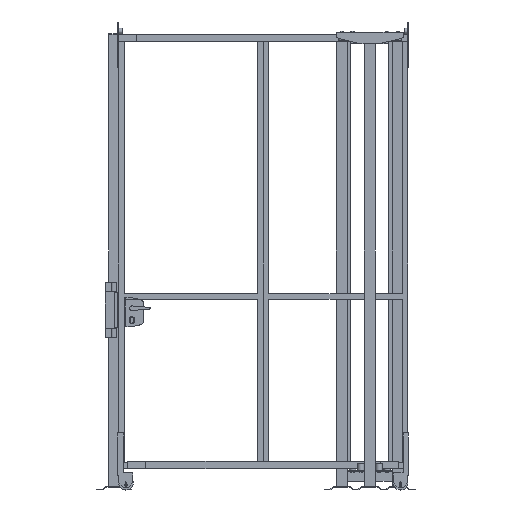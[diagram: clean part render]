
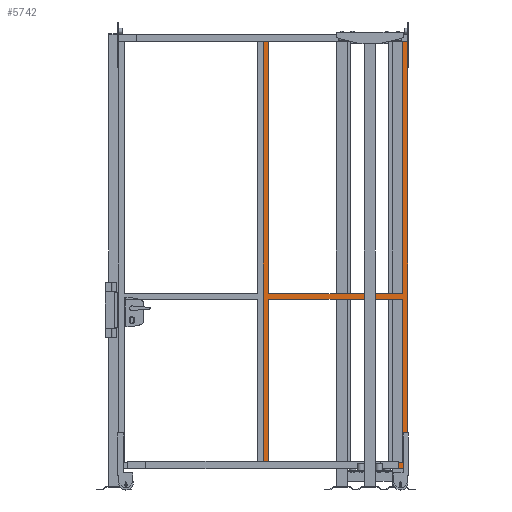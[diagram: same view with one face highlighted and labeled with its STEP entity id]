
A CAD part, front view. The second image highlights one B-rep face of the part: STEP entity #5742.
In plain terms, the highlighted planar face has unit normal (0, -1, 0).
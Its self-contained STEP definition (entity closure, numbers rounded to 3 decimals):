
#446=FACE_BOUND('',#945,.T.);
#447=FACE_BOUND('',#946,.T.);
#494=FACE_OUTER_BOUND('',#944,.T.);
#944=EDGE_LOOP('',(#3233,#3234,#3235,#3236));
#945=EDGE_LOOP('',(#3237,#3238,#3239,#3240));
#946=EDGE_LOOP('',(#3241,#3242,#3243,#3244));
#1436=VERTEX_POINT('',#11575);
#1438=VERTEX_POINT('',#11578);
#1441=VERTEX_POINT('',#11585);
#1443=VERTEX_POINT('',#11589);
#1444=VERTEX_POINT('',#11593);
#1446=VERTEX_POINT('',#11599);
#1447=VERTEX_POINT('',#11600);
#1448=VERTEX_POINT('',#11602);
#1449=VERTEX_POINT('',#11604);
#1450=VERTEX_POINT('',#11607);
#1451=VERTEX_POINT('',#11609);
#1452=VERTEX_POINT('',#11612);
#2155=EDGE_CURVE('',#1436,#1438,#6549,.T.);
#2161=EDGE_CURVE('',#1443,#1441,#6555,.T.);
#2162=EDGE_CURVE('',#1444,#1441,#6556,.T.);
#2165=EDGE_CURVE('',#1446,#1447,#6559,.T.);
#2166=EDGE_CURVE('',#1448,#1447,#6560,.T.);
#2167=EDGE_CURVE('',#1449,#1448,#6561,.T.);
#2168=EDGE_CURVE('',#1446,#1449,#6562,.T.);
#2169=EDGE_CURVE('',#1436,#1450,#6563,.T.);
#2170=EDGE_CURVE('',#1450,#1451,#6564,.T.);
#2171=EDGE_CURVE('',#1451,#1438,#6565,.T.);
#2172=EDGE_CURVE('',#1443,#1452,#6566,.T.);
#2173=EDGE_CURVE('',#1452,#1444,#6567,.T.);
#3233=ORIENTED_EDGE('',*,*,#2165,.T.);
#3234=ORIENTED_EDGE('',*,*,#2166,.F.);
#3235=ORIENTED_EDGE('',*,*,#2167,.F.);
#3236=ORIENTED_EDGE('',*,*,#2168,.F.);
#3237=ORIENTED_EDGE('',*,*,#2169,.T.);
#3238=ORIENTED_EDGE('',*,*,#2170,.T.);
#3239=ORIENTED_EDGE('',*,*,#2171,.T.);
#3240=ORIENTED_EDGE('',*,*,#2155,.F.);
#3241=ORIENTED_EDGE('',*,*,#2161,.F.);
#3242=ORIENTED_EDGE('',*,*,#2172,.T.);
#3243=ORIENTED_EDGE('',*,*,#2173,.T.);
#3244=ORIENTED_EDGE('',*,*,#2162,.T.);
#5358=PLANE('',#8586);
#5742=ADVANCED_FACE('',(#494,#446,#447),#5358,.F.);
#6549=LINE('',#11579,#7566);
#6555=LINE('',#11591,#7572);
#6556=LINE('',#11594,#7573);
#6559=LINE('',#11601,#7576);
#6560=LINE('',#11603,#7577);
#6561=LINE('',#11605,#7578);
#6562=LINE('',#11606,#7579);
#6563=LINE('',#11608,#7580);
#6564=LINE('',#11610,#7581);
#6565=LINE('',#11611,#7582);
#6566=LINE('',#11613,#7583);
#6567=LINE('',#11614,#7584);
#7566=VECTOR('',#9246,1.);
#7572=VECTOR('',#9254,1.);
#7573=VECTOR('',#9257,1.);
#7576=VECTOR('',#9262,1.);
#7577=VECTOR('',#9263,1.);
#7578=VECTOR('',#9264,1.);
#7579=VECTOR('',#9265,1.);
#7580=VECTOR('',#9266,1.);
#7581=VECTOR('',#9267,1.);
#7582=VECTOR('',#9268,1.);
#7583=VECTOR('',#9269,1.);
#7584=VECTOR('',#9270,1.);
#8586=AXIS2_PLACEMENT_3D('',#11598,#9260,#9261);
#9246=DIRECTION('',(1.,0.,0.));
#9254=DIRECTION('',(-1.,0.,0.));
#9257=DIRECTION('',(0.,0.,1.));
#9260=DIRECTION('center_axis',(0.,1.,0.));
#9261=DIRECTION('ref_axis',(0.,0.,1.));
#9262=DIRECTION('',(0.,0.,-1.));
#9263=DIRECTION('',(-1.,0.,0.));
#9264=DIRECTION('',(0.,0.,-1.));
#9265=DIRECTION('',(1.,0.,0.));
#9266=DIRECTION('',(0.,0.,1.));
#9267=DIRECTION('',(1.,0.,0.));
#9268=DIRECTION('',(0.,0.,-1.));
#9269=DIRECTION('',(0.,0.,-1.));
#9270=DIRECTION('',(-1.,0.,0.));
#11575=CARTESIAN_POINT('',(30.,0.,965.));
#11578=CARTESIAN_POINT('',(770.,0.,965.));
#11579=CARTESIAN_POINT('',(400.,0.,965.));
#11585=CARTESIAN_POINT('',(30.,0.,935.));
#11589=CARTESIAN_POINT('',(770.,0.,935.));
#11591=CARTESIAN_POINT('',(400.,0.,935.));
#11593=CARTESIAN_POINT('',(30.,0.,30.));
#11594=CARTESIAN_POINT('',(30.,0.,1200.));
#11598=CARTESIAN_POINT('Origin',(400.,0.,1200.));
#11599=CARTESIAN_POINT('',(0.,0.,2400.));
#11600=CARTESIAN_POINT('',(0.,0.,0.));
#11601=CARTESIAN_POINT('',(0.,0.,1200.));
#11602=CARTESIAN_POINT('',(800.,0.,0.));
#11603=CARTESIAN_POINT('',(400.,0.,0.));
#11604=CARTESIAN_POINT('',(800.,0.,2400.));
#11605=CARTESIAN_POINT('',(800.,0.,1200.));
#11606=CARTESIAN_POINT('',(400.,0.,2400.));
#11607=CARTESIAN_POINT('',(30.,0.,2370.));
#11608=CARTESIAN_POINT('',(30.,0.,1200.));
#11609=CARTESIAN_POINT('',(770.,0.,2370.));
#11610=CARTESIAN_POINT('',(400.,0.,2370.));
#11611=CARTESIAN_POINT('',(770.,0.,1200.));
#11612=CARTESIAN_POINT('',(770.,0.,30.));
#11613=CARTESIAN_POINT('',(770.,0.,1200.));
#11614=CARTESIAN_POINT('',(400.,0.,30.));
